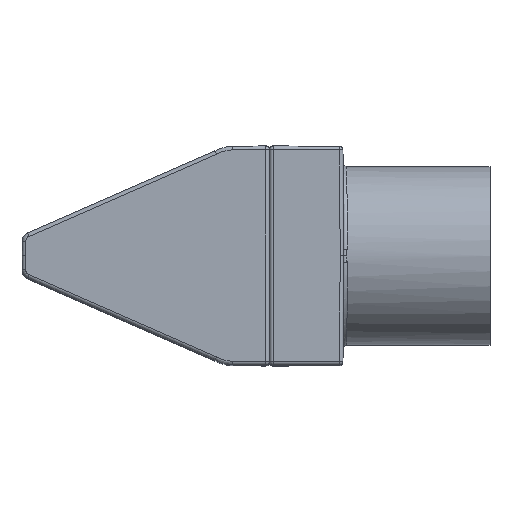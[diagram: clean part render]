
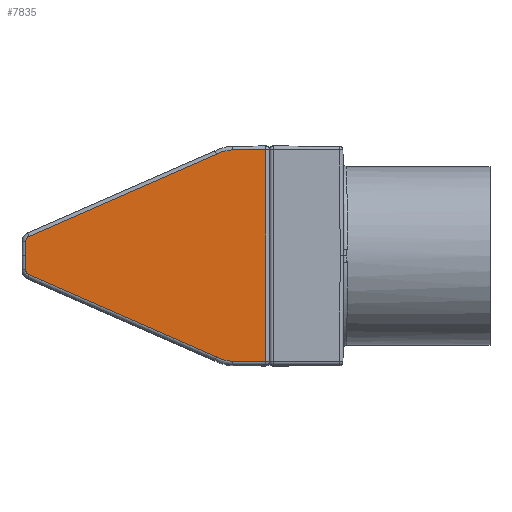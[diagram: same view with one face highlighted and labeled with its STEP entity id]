
A CAD part, top view. The second image highlights one B-rep face of the part: STEP entity #7835.
In plain terms, the highlighted planar face has unit normal (-0.009, 0, 1).
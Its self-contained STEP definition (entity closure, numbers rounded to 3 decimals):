
#59 = CARTESIAN_POINT ( 'NONE',  ( -69.967, 39.297, 26.056 ) ) ;
#134 = CARTESIAN_POINT ( 'NONE',  ( -69.865, 27.563, 26.056 ) ) ;
#179 = ORIENTED_EDGE ( 'NONE', *, *, #6360, .T. ) ;
#445 = ORIENTED_EDGE ( 'NONE', *, *, #1911, .T. ) ;
#1012 = DIRECTION ( 'NONE',  ( -0.008, -1., 0. ) ) ;
#1085 = VECTOR ( 'NONE', #1012, 1000. ) ;
#1730 = CARTESIAN_POINT ( 'NONE',  ( -83.115, 32.432, 25.941 ) ) ;
#1911 = EDGE_CURVE ( 'NONE', #10557, #12511, #10685, .T. ) ;
#1967 = ORIENTED_EDGE ( 'NONE', *, *, #9490, .T. ) ;
#2349 = VERTEX_POINT ( 'NONE', #6257 ) ;
#2696 = CARTESIAN_POINT ( 'NONE',  ( -83.117, 32.756, 25.941 ) ) ;
#2951 = CARTESIAN_POINT ( 'NONE',  ( -72.74, 28.017, 26.031 ) ) ;
#3256 = VERTEX_POINT ( 'NONE', #12713 ) ;
#3296 =( BOUNDED_CURVE ( )  B_SPLINE_CURVE ( 3, ( #6801, #15692, #11300, #2696 ),
 .UNSPECIFIED., .F., .T. ) 
 B_SPLINE_CURVE_WITH_KNOTS ( ( 4, 4 ),
 ( 1.984, 3.134 ),
 .UNSPECIFIED. ) 
 CURVE ( )  GEOMETRIC_REPRESENTATION_ITEM ( )  RATIONAL_B_SPLINE_CURVE ( ( 1., 0.893, 0.893, 1. ) ) 
 REPRESENTATION_ITEM ( '' )  );
#3599 = VERTEX_POINT ( 'NONE', #14759 ) ;
#4022 = LINE ( 'NONE', #12833, #7291 ) ;
#4397 = DIRECTION ( 'NONE',  ( 0.009, 0., -1. ) ) ;
#4483 = CARTESIAN_POINT ( 'NONE',  ( -83.124, 33.531, 25.941 ) ) ;
#4486 = CARTESIAN_POINT ( 'NONE',  ( -83.117, 32.756, 25.941 ) ) ;
#4617 =( BOUNDED_CURVE ( )  B_SPLINE_CURVE ( 3, ( #2951, #18699, #14606, #5607 ),
 .UNSPECIFIED., .F., .T. ) 
 B_SPLINE_CURVE_WITH_KNOTS ( ( 4, 4 ),
 ( 1.053, 1.562 ),
 .UNSPECIFIED. ) 
 CURVE ( )  GEOMETRIC_REPRESENTATION_ITEM ( )  RATIONAL_B_SPLINE_CURVE ( ( 1., 0.979, 0.979, 1. ) ) 
 REPRESENTATION_ITEM ( '' )  );
#4804 = CARTESIAN_POINT ( 'NONE',  ( -83.233, 34.448, 25.94 ) ) ;
#5016 = VECTOR ( 'NONE', #5126, 1000. ) ;
#5110 = AXIS2_PLACEMENT_3D ( 'NONE', #134, #4397, #10244 ) ;
#5126 = DIRECTION ( 'NONE',  ( 1., -0.009, 0.009 ) ) ;
#5198 = VECTOR ( 'NONE', #13710, 1000. ) ;
#5322 = ORIENTED_EDGE ( 'NONE', *, *, #13989, .T. ) ;
#5607 = CARTESIAN_POINT ( 'NONE',  ( -71.865, 27.781, 26.039 ) ) ;
#5719 =( BOUNDED_CURVE ( )  B_SPLINE_CURVE ( 3, ( #12806, #12429, #14142, #17016 ),
 .UNSPECIFIED., .F., .T. ) 
 B_SPLINE_CURVE_WITH_KNOTS ( ( 4, 4 ),
 ( 4.721, 5.23 ),
 .UNSPECIFIED. ) 
 CURVE ( )  GEOMETRIC_REPRESENTATION_ITEM ( )  RATIONAL_B_SPLINE_CURVE ( ( 1., 0.979, 0.979, 1. ) ) 
 REPRESENTATION_ITEM ( '' )  );
#5921 = CARTESIAN_POINT ( 'NONE',  ( -72.74, 39.045, 26.031 ) ) ;
#5948 = DIRECTION ( 'NONE',  ( -0.916, -0.401, -0.008 ) ) ;
#6257 = CARTESIAN_POINT ( 'NONE',  ( -71.865, 39.281, 26.039 ) ) ;
#6360 = EDGE_CURVE ( 'NONE', #11890, #16102, #16774, .T. ) ;
#6801 = CARTESIAN_POINT ( 'NONE',  ( -82.938, 32.484, 25.942 ) ) ;
#6829 = ORIENTED_EDGE ( 'NONE', *, *, #7962, .T. ) ;
#6985 = VECTOR ( 'NONE', #8873, 1000. ) ;
#7091 = DIRECTION ( 'NONE',  ( -1., -0.009, -0.009 ) ) ;
#7104 = EDGE_CURVE ( 'NONE', #12947, #10557, #4617, .T. ) ;
#7291 = VECTOR ( 'NONE', #12921, 1000. ) ;
#7835 = ADVANCED_FACE ( 'NONE', ( #11673 ), #17502, .F. ) ;
#7856 = LINE ( 'NONE', #13976, #5198 ) ;
#7962 = EDGE_CURVE ( 'NONE', #2349, #9564, #5719, .T. ) ;
#8339 = CARTESIAN_POINT ( 'NONE',  ( -83.049, 34.529, 25.941 ) ) ;
#8640 = EDGE_LOOP ( 'NONE', ( #18820, #1967, #15456, #445, #13038, #5322, #6829, #18389, #13347, #16403, #179 ) ) ;
#8873 = DIRECTION ( 'NONE',  ( 0.008, -1., 0. ) ) ;
#8933 = LINE ( 'NONE', #4804, #14007 ) ;
#9009 = CARTESIAN_POINT ( 'NONE',  ( -71.865, 27.781, 26.039 ) ) ;
#9206 = EDGE_CURVE ( 'NONE', #9564, #3256, #8933, .T. ) ;
#9429 = EDGE_CURVE ( 'NONE', #9995, #16102, #3296, .T. ) ;
#9490 = EDGE_CURVE ( 'NONE', #9995, #12947, #4022, .T. ) ;
#9564 = VERTEX_POINT ( 'NONE', #5921 ) ;
#9995 = VERTEX_POINT ( 'NONE', #15721 ) ;
#10244 = DIRECTION ( 'NONE',  ( -1., 0., -0.009 ) ) ;
#10557 = VERTEX_POINT ( 'NONE', #9009 ) ;
#10570 = VERTEX_POINT ( 'NONE', #13511 ) ;
#10685 = LINE ( 'NONE', #14994, #5016 ) ;
#11300 = CARTESIAN_POINT ( 'NONE',  ( -83.116, 32.635, 25.941 ) ) ;
#11494 = CARTESIAN_POINT ( 'NONE',  ( -83.117, 34.305, 25.941 ) ) ;
#11673 = FACE_OUTER_BOUND ( 'NONE', #8640, .T. ) ;
#11690 = LINE ( 'NONE', #59, #12540 ) ;
#11890 = VERTEX_POINT ( 'NONE', #4483 ) ;
#12429 = CARTESIAN_POINT ( 'NONE',  ( -72.174, 39.278, 26.036 ) ) ;
#12511 = VERTEX_POINT ( 'NONE', #17080 ) ;
#12540 = VECTOR ( 'NONE', #7091, 1000. ) ;
#12713 = CARTESIAN_POINT ( 'NONE',  ( -82.938, 34.578, 25.942 ) ) ;
#12806 = CARTESIAN_POINT ( 'NONE',  ( -71.865, 39.281, 26.039 ) ) ;
#12833 = CARTESIAN_POINT ( 'NONE',  ( -72.748, 28.02, 26.031 ) ) ;
#12921 = DIRECTION ( 'NONE',  ( 0.916, -0.401, 0.008 ) ) ;
#12947 = VERTEX_POINT ( 'NONE', #14280 ) ;
#13038 = ORIENTED_EDGE ( 'NONE', *, *, #14249, .T. ) ;
#13347 = ORIENTED_EDGE ( 'NONE', *, *, #17878, .F. ) ;
#13511 = CARTESIAN_POINT ( 'NONE',  ( -70.067, 39.297, 26.055 ) ) ;
#13710 = DIRECTION ( 'NONE',  ( 0., 1., 0. ) ) ;
#13976 = CARTESIAN_POINT ( 'NONE',  ( -70.067, 27.563, 26.055 ) ) ;
#13989 = EDGE_CURVE ( 'NONE', #10570, #2349, #11690, .T. ) ;
#14007 = VECTOR ( 'NONE', #5948, 1000. ) ;
#14142 = CARTESIAN_POINT ( 'NONE',  ( -72.472, 39.198, 26.034 ) ) ;
#14174 = CARTESIAN_POINT ( 'NONE',  ( -82.938, 34.578, 25.942 ) ) ;
#14249 = EDGE_CURVE ( 'NONE', #12511, #10570, #7856, .T. ) ;
#14280 = CARTESIAN_POINT ( 'NONE',  ( -72.74, 28.017, 26.031 ) ) ;
#14336 =( BOUNDED_CURVE ( )  B_SPLINE_CURVE ( 3, ( #11494, #15612, #8339, #14174 ),
 .UNSPECIFIED., .F., .T. ) 
 B_SPLINE_CURVE_WITH_KNOTS ( ( 4, 4 ),
 ( 3.15, 4.299 ),
 .UNSPECIFIED. ) 
 CURVE ( )  GEOMETRIC_REPRESENTATION_ITEM ( )  RATIONAL_B_SPLINE_CURVE ( ( 1., 0.893, 0.893, 1. ) ) 
 REPRESENTATION_ITEM ( '' )  );
#14606 = CARTESIAN_POINT ( 'NONE',  ( -72.174, 27.783, 26.036 ) ) ;
#14759 = CARTESIAN_POINT ( 'NONE',  ( -83.117, 34.305, 25.941 ) ) ;
#14994 = CARTESIAN_POINT ( 'NONE',  ( -69.863, 27.763, 26.056 ) ) ;
#15456 = ORIENTED_EDGE ( 'NONE', *, *, #7104, .T. ) ;
#15612 = CARTESIAN_POINT ( 'NONE',  ( -83.116, 34.427, 25.941 ) ) ;
#15692 = CARTESIAN_POINT ( 'NONE',  ( -83.049, 32.533, 25.941 ) ) ;
#15710 = CARTESIAN_POINT ( 'NONE',  ( -83.124, 33.529, 25.941 ) ) ;
#15721 = CARTESIAN_POINT ( 'NONE',  ( -82.938, 32.484, 25.942 ) ) ;
#16102 = VERTEX_POINT ( 'NONE', #4486 ) ;
#16403 = ORIENTED_EDGE ( 'NONE', *, *, #18000, .T. ) ;
#16774 = LINE ( 'NONE', #1730, #6985 ) ;
#17016 = CARTESIAN_POINT ( 'NONE',  ( -72.74, 39.045, 26.031 ) ) ;
#17080 = CARTESIAN_POINT ( 'NONE',  ( -70.067, 27.765, 26.055 ) ) ;
#17502 = PLANE ( 'NONE',  #5110 ) ;
#17878 = EDGE_CURVE ( 'NONE', #3599, #3256, #14336, .T. ) ;
#18000 = EDGE_CURVE ( 'NONE', #3599, #11890, #18370, .T. ) ;
#18370 = LINE ( 'NONE', #15710, #1085 ) ;
#18389 = ORIENTED_EDGE ( 'NONE', *, *, #9206, .T. ) ;
#18699 = CARTESIAN_POINT ( 'NONE',  ( -72.472, 27.864, 26.034 ) ) ;
#18820 = ORIENTED_EDGE ( 'NONE', *, *, #9429, .F. ) ;
